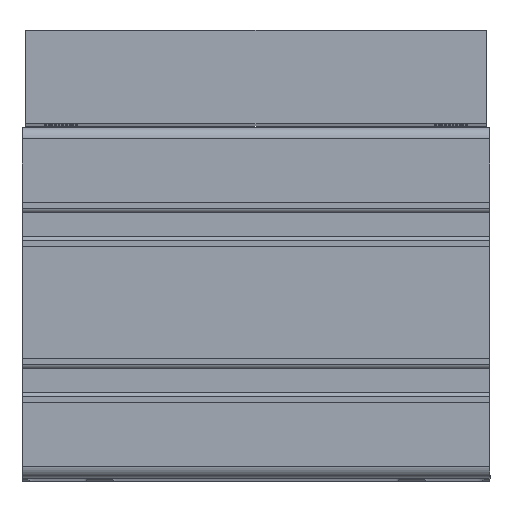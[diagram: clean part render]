
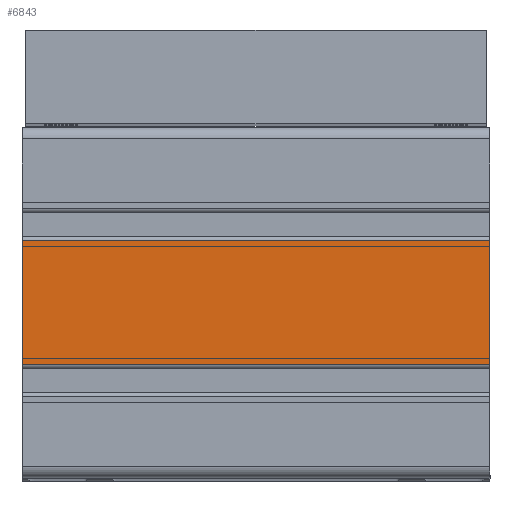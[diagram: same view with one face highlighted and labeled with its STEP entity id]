
A CAD part, top view. The second image highlights one B-rep face of the part: STEP entity #6843.
In plain terms, the highlighted planar face has unit normal (0, 0, 1) as drawn and (1, 0, 0) by its records, which use the part's own axes.
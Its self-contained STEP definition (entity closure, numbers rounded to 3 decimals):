
#5342=CARTESIAN_POINT('',(90.,60.9,0.0));
#5343=VERTEX_POINT('',#5342);
#5351=CARTESIAN_POINT('',(90.0,29.1,0.0));
#5352=VERTEX_POINT('',#5351);
#5353=CARTESIAN_POINT('',(90.0,29.1,0.0));
#5354=DIRECTION('',(0.0,1.0,0.0));
#5355=VECTOR('',#5354,31.8);
#5356=LINE('',#5353,#5355);
#5357=EDGE_CURVE('',#5352,#5343,#5356,.T.);
#5584=CARTESIAN_POINT('',(90.0,29.1,120.0));
#5585=VERTEX_POINT('',#5584);
#5593=CARTESIAN_POINT('',(90.,60.9,120.0));
#5594=VERTEX_POINT('',#5593);
#5595=CARTESIAN_POINT('',(90.,60.9,120.0));
#5596=DIRECTION('',(0.0,-1.0,0.0));
#5597=VECTOR('',#5596,31.8);
#5598=LINE('',#5595,#5597);
#5599=EDGE_CURVE('',#5594,#5585,#5598,.T.);
#6258=CARTESIAN_POINT('',(90.0,29.1,0.0));
#6259=DIRECTION('',(0.0,0.0,1.0));
#6260=VECTOR('',#6259,120.0);
#6261=LINE('',#6258,#6260);
#6262=EDGE_CURVE('',#5352,#5585,#6261,.T.);
#6297=CARTESIAN_POINT('',(90.,60.9,120.0));
#6298=DIRECTION('',(0.0,0.0,-1.0));
#6299=VECTOR('',#6298,120.0);
#6300=LINE('',#6297,#6299);
#6301=EDGE_CURVE('',#5594,#5343,#6300,.T.);
#6832=CARTESIAN_POINT('',(90.,90.0,0.0));
#6833=DIRECTION('',(1.0,0.0,0.0));
#6834=DIRECTION('',(0.0,0.0,-1.0));
#6835=AXIS2_PLACEMENT_3D('',#6832,#6833,#6834);
#6836=PLANE('',#6835);
#6837=ORIENTED_EDGE('',*,*,#6262,.F.);
#6838=ORIENTED_EDGE('',*,*,#5357,.T.);
#6839=ORIENTED_EDGE('',*,*,#6301,.F.);
#6840=ORIENTED_EDGE('',*,*,#5599,.T.);
#6841=EDGE_LOOP('',(#6837,#6838,#6839,#6840));
#6842=FACE_OUTER_BOUND('',#6841,.T.);
#6843=ADVANCED_FACE('',(#6842),#6836,.T.);
